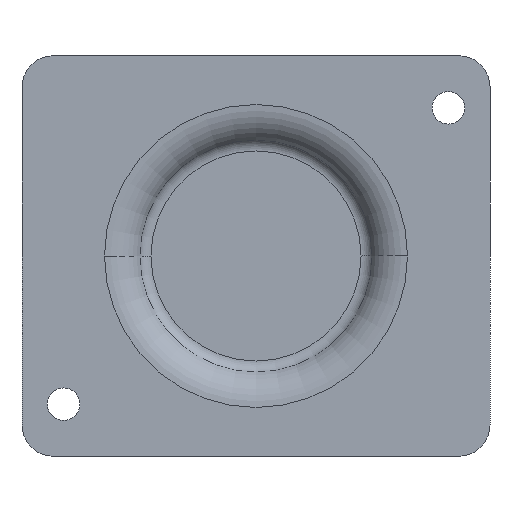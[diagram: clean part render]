
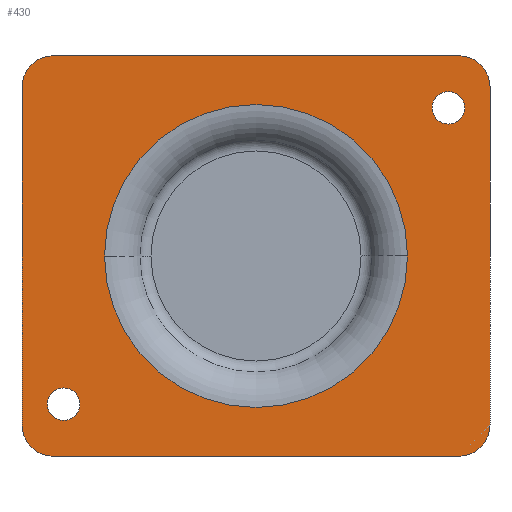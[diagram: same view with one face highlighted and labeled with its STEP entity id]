
A CAD part, front view. The second image highlights one B-rep face of the part: STEP entity #430.
In plain terms, the highlighted planar face has unit normal (0, -1, 0).
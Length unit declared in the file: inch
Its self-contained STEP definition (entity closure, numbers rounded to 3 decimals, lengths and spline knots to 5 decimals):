
#71=CARTESIAN_POINT('',(-0.74,0.,-0.57));
#72=DIRECTION('',(0.,-1.,0.));
#73=DIRECTION('',(1.,0.,0.));
#74=AXIS2_PLACEMENT_3D('',#71,#72,#73);
#76=CARTESIAN_POINT('',(-0.74,0.,-0.57));
#77=DIRECTION('',(0.,-1.,0.));
#78=DIRECTION('',(-1.,0.,0.));
#79=AXIS2_PLACEMENT_3D('',#76,#77,#78);
#81=CARTESIAN_POINT('',(0.74,0.,0.57));
#82=DIRECTION('',(0.,-1.,0.));
#83=DIRECTION('',(1.,0.,0.));
#84=AXIS2_PLACEMENT_3D('',#81,#82,#83);
#86=CARTESIAN_POINT('',(0.74,0.,0.57));
#87=DIRECTION('',(0.,-1.,0.));
#88=DIRECTION('',(-1.,0.,0.));
#89=AXIS2_PLACEMENT_3D('',#86,#87,#88);
#91=CARTESIAN_POINT('',(0.,0.,0.));
#92=DIRECTION('',(0.,-1.,0.));
#93=DIRECTION('',(1.,0.,0.));
#94=AXIS2_PLACEMENT_3D('',#91,#92,#93);
#96=CARTESIAN_POINT('',(0.,0.,0.));
#97=DIRECTION('',(0.,-1.,0.));
#98=DIRECTION('',(-1.,0.,0.));
#99=AXIS2_PLACEMENT_3D('',#96,#97,#98);
#101=CARTESIAN_POINT('',(-0.78,0.,-0.65));
#102=DIRECTION('',(0.,-1.,0.));
#103=DIRECTION('',(-1.,0.,0.));
#104=AXIS2_PLACEMENT_3D('',#101,#102,#103);
#106=DIRECTION('',(0.,0.,1.));
#107=VECTOR('',#106,1.3);
#108=CARTESIAN_POINT('',(-0.9,0.,-0.65));
#109=LINE('',#108,#107);
#110=CARTESIAN_POINT('',(-0.78,0.,0.65));
#111=DIRECTION('',(0.,-1.,0.));
#112=DIRECTION('',(0.,0.,1.));
#113=AXIS2_PLACEMENT_3D('',#110,#111,#112);
#115=DIRECTION('',(1.,0.,0.));
#116=VECTOR('',#115,1.56);
#117=CARTESIAN_POINT('',(-0.78,0.,0.77));
#118=LINE('',#117,#116);
#119=CARTESIAN_POINT('',(0.78,0.,0.65));
#120=DIRECTION('',(0.,-1.,0.));
#121=DIRECTION('',(1.,0.,0.));
#122=AXIS2_PLACEMENT_3D('',#119,#120,#121);
#124=DIRECTION('',(0.,0.,-1.));
#125=VECTOR('',#124,1.3);
#126=CARTESIAN_POINT('',(0.9,0.,0.65));
#127=LINE('',#126,#125);
#128=CARTESIAN_POINT('',(0.78,0.,-0.65));
#129=DIRECTION('',(0.,-1.,0.));
#130=DIRECTION('',(0.,0.,-1.));
#131=AXIS2_PLACEMENT_3D('',#128,#129,#130);
#133=DIRECTION('',(-1.,0.,0.));
#134=VECTOR('',#133,1.56);
#135=CARTESIAN_POINT('',(0.78,0.,-0.77));
#136=LINE('',#135,#134);
#261=CARTESIAN_POINT('',(-0.6775,0.,-0.57));
#262=CARTESIAN_POINT('',(-0.8025,0.,-0.57));
#263=VERTEX_POINT('',#261);
#264=VERTEX_POINT('',#262);
#265=CARTESIAN_POINT('',(0.8025,0.,0.57));
#266=CARTESIAN_POINT('',(0.6775,0.,0.57));
#267=VERTEX_POINT('',#265);
#268=VERTEX_POINT('',#266);
#297=CARTESIAN_POINT('',(0.58255,0.,0.));
#298=CARTESIAN_POINT('',(-0.58255,0.,0.));
#299=VERTEX_POINT('',#297);
#300=VERTEX_POINT('',#298);
#301=CARTESIAN_POINT('',(-0.9,0.,-0.65));
#302=CARTESIAN_POINT('',(-0.78,0.,-0.77));
#303=VERTEX_POINT('',#301);
#304=VERTEX_POINT('',#302);
#309=CARTESIAN_POINT('',(-0.78,0.,0.77));
#310=CARTESIAN_POINT('',(-0.9,0.,0.65));
#311=VERTEX_POINT('',#309);
#312=VERTEX_POINT('',#310);
#317=CARTESIAN_POINT('',(0.9,0.,0.65));
#318=CARTESIAN_POINT('',(0.78,0.,0.77));
#319=VERTEX_POINT('',#317);
#320=VERTEX_POINT('',#318);
#325=CARTESIAN_POINT('',(0.78,0.,-0.77));
#326=CARTESIAN_POINT('',(0.9,0.,-0.65));
#327=VERTEX_POINT('',#325);
#328=VERTEX_POINT('',#326);
#390=CARTESIAN_POINT('',(0.,0.,0.));
#391=DIRECTION('',(0.,1.,0.));
#392=DIRECTION('',(1.,0.,0.));
#393=AXIS2_PLACEMENT_3D('',#390,#391,#392);
#394=PLANE('',#393);
#396=ORIENTED_EDGE('',*,*,#395,.F.);
#398=ORIENTED_EDGE('',*,*,#397,.T.);
#400=ORIENTED_EDGE('',*,*,#399,.F.);
#402=ORIENTED_EDGE('',*,*,#401,.T.);
#404=ORIENTED_EDGE('',*,*,#403,.F.);
#406=ORIENTED_EDGE('',*,*,#405,.T.);
#408=ORIENTED_EDGE('',*,*,#407,.F.);
#410=ORIENTED_EDGE('',*,*,#409,.T.);
#411=EDGE_LOOP('',(#396,#398,#400,#402,#404,#406,#408,#410));
#412=FACE_OUTER_BOUND('',#411,.F.);
#414=ORIENTED_EDGE('',*,*,#413,.T.);
#416=ORIENTED_EDGE('',*,*,#415,.T.);
#417=EDGE_LOOP('',(#414,#416));
#418=FACE_BOUND('',#417,.F.);
#420=ORIENTED_EDGE('',*,*,#419,.T.);
#422=ORIENTED_EDGE('',*,*,#421,.T.);
#423=EDGE_LOOP('',(#420,#422));
#424=FACE_BOUND('',#423,.F.);
#425=ORIENTED_EDGE('',*,*,#380,.T.);
#427=ORIENTED_EDGE('',*,*,#426,.T.);
#428=EDGE_LOOP('',(#425,#427));
#429=FACE_BOUND('',#428,.F.);
#430=ADVANCED_FACE('',(#412,#418,#424,#429),#394,.F.);
#75=CIRCLE('',#74,0.0625);
#80=CIRCLE('',#79,0.0625);
#85=CIRCLE('',#84,0.0625);
#90=CIRCLE('',#89,0.0625);
#95=CIRCLE('',#94,0.58255);
#100=CIRCLE('',#99,0.58255);
#105=CIRCLE('',#104,0.12);
#114=CIRCLE('',#113,0.12);
#123=CIRCLE('',#122,0.12);
#132=CIRCLE('',#131,0.12);
#380=EDGE_CURVE('',#263,#264,#75,.T.);
#395=EDGE_CURVE('',#303,#304,#105,.T.);
#397=EDGE_CURVE('',#303,#312,#109,.T.);
#399=EDGE_CURVE('',#311,#312,#114,.T.);
#401=EDGE_CURVE('',#311,#320,#118,.T.);
#403=EDGE_CURVE('',#319,#320,#123,.T.);
#405=EDGE_CURVE('',#319,#328,#127,.T.);
#407=EDGE_CURVE('',#327,#328,#132,.T.);
#409=EDGE_CURVE('',#327,#304,#136,.T.);
#413=EDGE_CURVE('',#267,#268,#85,.T.);
#415=EDGE_CURVE('',#268,#267,#90,.T.);
#419=EDGE_CURVE('',#299,#300,#95,.T.);
#421=EDGE_CURVE('',#300,#299,#100,.T.);
#426=EDGE_CURVE('',#264,#263,#80,.T.);
